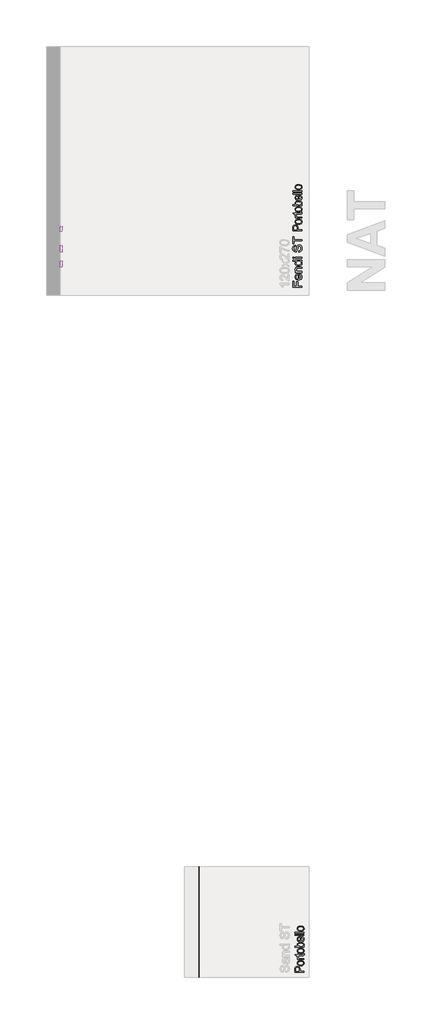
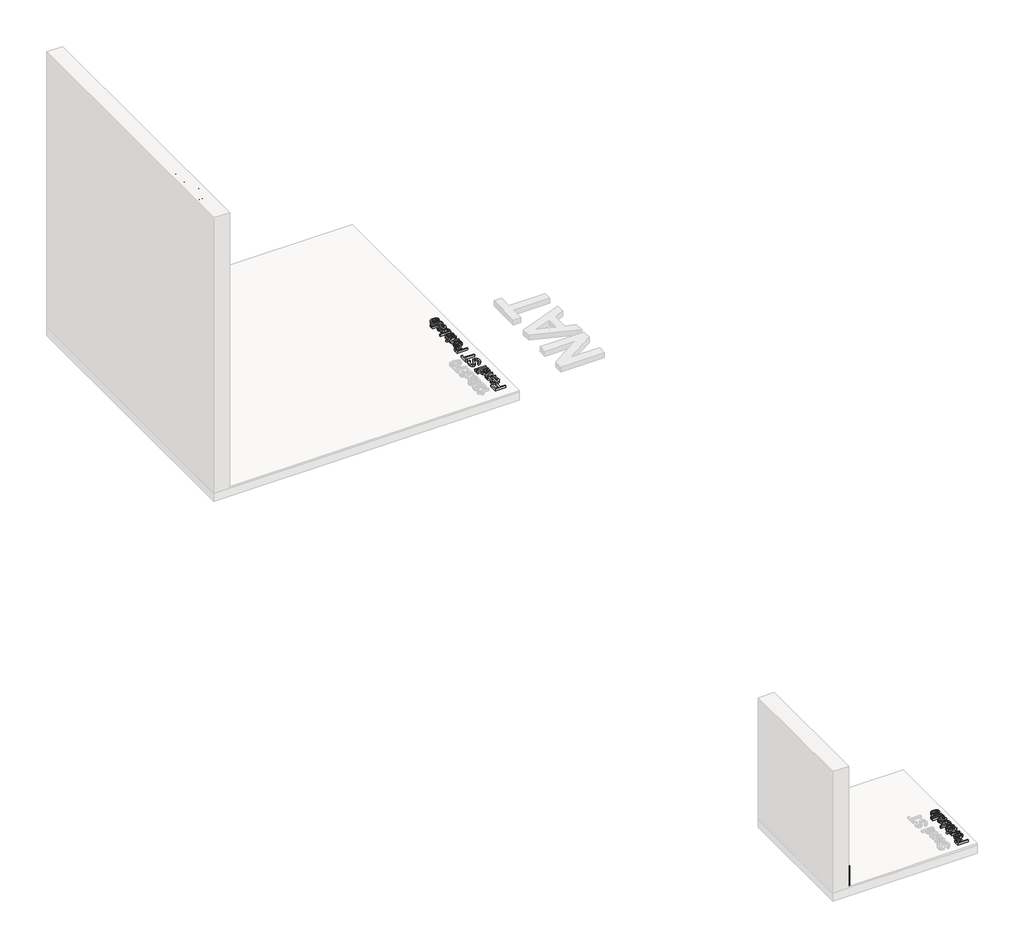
# One storey, part 12 of 19: 7 proxies.
"""IFC4 building model written with IfcOpenShell, lengths in millimetres."""

from ifc_helpers import new_model, si_unit, frame, origin, origin_with_axes, place, context, project, spatial, polyline, outline, extrude, element, save
from ifc_brep_helpers import plane_surface, extruded_surface, spline_curve, advanced_brep

model = new_model("IFC4")

# Units and contexts
model_context = context("Model", 3, world=origin())
ifc_project = project(units=[si_unit("LENGTHUNIT", "METRE", prefix="MILLI")], contexts=[model_context])

# Site, building, storey
site = spatial("IfcSite", under=ifc_project)
building = spatial("IfcBuilding", under=site)
storey = spatial("IfcBuildingStorey", under=building, Name="PORTOBELLO - SHOWROOM", Elevation=0.0)

# Proxies
placement = place(None, origin())
element("IfcBuildingElementProxy", 1, Name="RODAPE KALKS SAND ST 20X120 NAT RET", ObjectType="RODAPE KALKS SAND ST 20X120 NAT RET", at=placement, inside=storey, context=model_context, shape_type="AdvancedBrep", body=[
    advanced_brep(
    [(-7494.2033025, 18603.6967801, 217.0), (-7494.2033025, 18603.6967801, 17.0), (-7485.2033025, 18603.6967801, 17.0), (-7485.2033025, 18603.6967801, 208.0), (-7494.2033025, 19803.6967801, 217.0), (-7485.2033025, 19803.6967801, 208.0), (-7485.2033025, 19803.6967801, 17.0), (-7494.2033025, 19803.6967801, 17.0)],
    [
        (0, 1),
        (1, 2),
        (2, 3),
        (3, 0, spline_curve(3, [(-7485.2033025, 18603.6967801, 208.0), (-7485.2033025, 18603.6967801, 214.0), (-7488.2033025, 18603.6967801, 217.0), (-7494.2033025, 18603.6967801, 217.0)], [4, 4], [0.0, 0.029527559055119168])),
        (4, 5, spline_curve(3, [(-7494.2033025, 19803.6967801, 217.0), (-7488.2033025, 19803.6967801, 217.0), (-7485.2033025, 19803.6967801, 214.0), (-7485.2033025, 19803.6967801, 208.0)], [4, 4], [0.0, 0.029527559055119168])),
        (5, 6),
        (6, 7),
        (7, 4),
        (0, 4),
        (7, 1),
        (6, 2),
        (5, 3),
    ],
    [
        plane_surface(frame((-7694.2033025, 18603.6967801, 17.0), z_axis=(0.0, -1.0, 0.0), x_axis=(0.0, 0.0, 1.0))),
        plane_surface(frame((-7694.2033025, 19803.6967801, 17.0), z_axis=(0.0, 1.0, 0.0), x_axis=(0.0, 0.0, 1.0))),
        plane_surface(frame((-7494.2033025, 18603.6967801, 217.0), z_axis=(-1.0, 0.0, 0.0), x_axis=(0.0, 1.0, 0.0))),
        plane_surface(frame((-7494.2033025, 18603.6967801, 17.0), z_axis=(0.0, 0.0, -1.0), x_axis=(0.0, 1.0, 0.0))),
        plane_surface(frame((-7485.2033025, 18603.6967801, 17.0), z_axis=(1.0, 0.0, 0.0), x_axis=(0.0, 1.0, 0.0))),
        extruded_surface(spline_curve(3, [(-7485.2033025, 19803.6967801, 208.0), (-7485.2033025, 19803.6967801, 214.0), (-7488.2033025, 19803.6967801, 217.0), (-7494.2033025, 19803.6967801, 217.0)], [4, 4], [0.0, 0.029527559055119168]), (0.0, -1200.0, 0.0), 1200.0),
    ],
    [
        (0, [[1, 2, 3, 4]]),
        (1, [[5, 6, 7, 8]]),
        (2, [[-1, 9, -8, 10]]),
        (3, [[-2, -10, -7, 11]]),
        (4, [[-3, -11, -6, 12]]),
        (5, [[-4, -12, -5, -9]]),
    ],
),
])
element("IfcBuildingElementProxy", 2, Name="10mm Arial", ObjectType="10mm Arial", at=placement, inside=storey, context=model_context, shape_type="SweptSolid", body=[
    extrude(outline(polyline([(-6369.7750187, 26090.3457717), (-6470.2313288, 26090.3457717), (-6470.2313288, 26157.8398551), (-6457.6742901, 26157.8398551), (-6457.6742901, 26102.9028104), (-6427.851323, 26102.9028104), (-6427.851323, 26149.9917058), (-6415.2942842, 26149.9917058), (-6415.2942842, 26102.9028104), (-6369.7750187, 26102.9028104), (-6369.7750187, 26090.3457717)])), origin_with_axes(), (0.0, 0.0, 1.0), 20.0),
    extrude(outline(polyline([(-6391.7498365, 26225.1867856), (-6390.1802067, 26237.4985697), (-6380.903449, 26233.062526), (-6373.9688734, 26225.9838633), (-6369.64626, 26216.4219971), (-6368.2053888, 26204.536343), (-6370.691658, 26189.8026691), (-6378.1504654, 26178.4657723), (-6390.0974332, 26171.236891), (-6406.0481834, 26168.827264), (-6422.5354282, 26171.2614165), (-6434.8656064, 26178.5638741), (-6442.5543401, 26189.7474868), (-6445.1172513, 26203.8251045), (-6442.5604714, 26217.4643294), (-6434.8901318, 26228.3628335), (-6422.5844791, 26235.5089413), (-6406.1217598, 26237.8909772), (-6402.7372455, 26237.8174008), (-6402.7372455, 26181.3843027), (-6393.3378605, 26183.5578722), (-6386.4278103, 26188.6070526), (-6382.1787733, 26195.8941818), (-6380.7624276, 26204.7815976), (-6383.3866525, 26217.0933817), (-6391.7498365, 26225.1867856)]), holes=[polyline([(-6415.2942842, 26181.3843027), (-6415.2942842, 26225.3339384), (-6426.6741006, 26220.3062178), (-6431.0886845, 26212.9853661), (-6432.5602125, 26203.7760535), (-6427.8635857, 26188.312747), (-6422.3729469, 26183.4475076), (-6415.2942842, 26181.3843027)])]), origin_with_axes(), (0.0, 0.0, 1.0), 20.0),
    extrude(outline(polyline([(-6369.7750187, 26250.448016), (-6443.5476215, 26250.448016), (-6443.5476215, 26263.0050547), (-6433.2469256, 26263.0050547), (-6442.1496699, 26272.6067748), (-6445.1172513, 26285.7156366), (-6442.7260183, 26297.5736996), (-6436.4474989, 26305.6671034), (-6427.2136609, 26309.4317625), (-6415.073555, 26310.0939501), (-6369.7750187, 26310.0939501), (-6369.7750187, 26297.5369114), (-6413.3812978, 26297.5369114), (-6424.4913341, 26296.0899088), (-6430.3651833, 26290.9763491), (-6432.5602125, 26282.3556477), (-6427.6305938, 26268.7317511), (-6420.4875517, 26264.4367288), (-6408.917663, 26263.0050547), (-6369.7750187, 26263.0050547), (-6369.7750187, 26250.448016)])), origin_with_axes(), (0.0, 0.0, 1.0), 20.0),
    extrude(outline(polyline([(-6369.7750187, 26372.879144), (-6381.6208189, 26372.879144), (-6371.5592464, 26364.5711422), (-6368.2053888, 26353.0870926), (-6373.0614312, 26337.537947), (-6386.6117513, 26326.550538), (-6406.5877437, 26322.6509889), (-6426.5759987, 26326.2439697), (-6440.3347854, 26337.0106494), (-6445.1172513, 26353.0380417), (-6441.6959487, 26364.6140618), (-6432.8054672, 26372.879144), (-6470.2313288, 26372.879144), (-6470.2313288, 26385.4361827), (-6369.7750187, 26385.4361827), (-6369.7750187, 26372.879144)]), holes=[polyline([(-6406.6367946, 26335.2080277), (-6395.278438, 26336.6243733), (-6387.2003625, 26340.8734104), (-6382.3719113, 26347.0476965), (-6380.7624276, 26354.2397895), (-6382.2983349, 26361.4288169), (-6386.9060569, 26367.4467532), (-6394.6714327, 26371.5210463), (-6405.6803014, 26372.879144), (-6417.716174, 26371.4965208), (-6426.0609639, 26367.3486513), (-6430.9354004, 26361.1774308), (-6432.5602125, 26353.7247548), (-6430.9997797, 26346.4590853), (-6426.3184813, 26340.5055284), (-6418.2771941, 26336.5324028), (-6406.6367946, 26335.2080277)])]), origin_with_axes(), (0.0, 0.0, 1.0), 20.0),
    extrude(outline(polyline([(-6369.7750187, 26404.2717409), (-6443.5476215, 26404.2717409), (-6443.5476215, 26416.8287797), (-6369.7750187, 26416.8287797), (-6369.7750187, 26404.2717409)])), origin_with_axes(), (0.0, 0.0, 1.0), 20.0),
    extrude(outline(polyline([(-6457.6742901, 26404.2717409), (-6470.2313288, 26404.2717409), (-6470.2313288, 26416.8287797), (-6457.6742901, 26416.8287797), (-6457.6742901, 26404.2717409)])), origin_with_axes(), (0.0, 0.0, 1.0), 20.0),
    extrude(outline(polyline([(-6404.3068753, 26471.7658243), (-6404.3068753, 26484.322863), (-6391.7375738, 26488.369565), (-6383.7913227, 26498.2533279), (-6380.7624276, 26513.3119643), (-6383.0555587, 26526.4330888), (-6389.3586036, 26534.9066374), (-6397.7831013, 26537.6902778), (-6405.6189877, 26535.6056132), (-6411.3211587, 26527.0707509), (-6416.1158873, 26508.7870157), (-6422.3085676, 26489.105329), (-6431.6527703, 26478.4244884), (-6444.1362326, 26474.905084), (-6458.3487404, 26479.2583542), (-6468.3796561, 26491.9748085), (-6471.8009587, 26510.5896375), (-6468.2202406, 26530.4552652), (-6457.6988155, 26543.6990171), (-6441.9779916, 26548.6776867), (-6441.9779916, 26536.120648), (-6449.4705216, 26533.8152541), (-6454.8783869, 26529.0082627), (-6459.2439199, 26511.0801468), (-6454.9274378, 26493.10298), (-6444.5041146, 26487.4621227), (-6435.7975741, 26491.4597737), (-6428.7832907, 26511.9630636), (-6422.4802459, 26534.1831361), (-6412.3021773, 26546.3355047), (-6398.1019323, 26550.2473166), (-6383.0800842, 26545.7468935), (-6372.1172007, 26532.7974473), (-6368.2053888, 26513.8024736), (-6372.4237691, 26491.3739346), (-6385.1279606, 26477.1859523), (-6404.3068753, 26471.7658243)])), origin_with_axes(), (0.0, 0.0, 1.0), 20.0),
    extrude(outline(polyline([(-6369.7750187, 26594.1969523), (-6457.6742901, 26594.1969523), (-6457.6742901, 26561.2347255), (-6470.2313288, 26561.2347255), (-6470.2313288, 26639.7162178), (-6457.6742901, 26639.7162178), (-6457.6742901, 26606.753991), (-6369.7750187, 26606.753991), (-6369.7750187, 26594.1969523)])), origin_with_axes(), (0.0, 0.0, 1.0), 20.0),
])
element("IfcBuildingElementProxy", 3, Name="10mm Arial", ObjectType="10mm Arial", at=placement, inside=storey, context=model_context, shape_type="SweptSolid", body=[
    extrude(outline(polyline([(26086.9887696, 2516.1895903), (26086.9887696, 2616.6459005), (26154.482853, 2616.6459005), (26154.482853, 2604.0888617), (26099.5458084, 2604.0888617), (26099.5458084, 2574.2658946), (26146.6347037, 2574.2658946), (26146.6347037, 2561.7088559), (26099.5458084, 2561.7088559), (26099.5458084, 2516.1895903), (26086.9887696, 2516.1895903)])), frame((-8994.2033025, 0.0, 0.0), z_axis=(1.0, 0.0, 0.0), x_axis=(0.0, 1.0, 0.0)), (0.0, 0.0, 1.0), 20.0),
    extrude(outline(polyline([(26221.8297836, 2538.1644082), (26234.1415677, 2536.5947783), (26229.7055239, 2527.3180207), (26222.6268612, 2520.3834451), (26213.064995, 2516.0608316), (26201.1793409, 2514.6199605), (26186.445667, 2517.1062296), (26175.1087702, 2524.5650371), (26167.879889, 2536.5120049), (26165.4702619, 2552.4627551), (26167.9044144, 2568.9499998), (26175.206872, 2581.280178), (26186.3904847, 2588.9689117), (26200.4681024, 2591.531823), (26214.1073273, 2588.9750431), (26225.0058314, 2581.3047035), (26232.1519392, 2568.9990508), (26234.5339751, 2552.5363315), (26234.4603987, 2549.1518171), (26178.0273007, 2549.1518171), (26180.2008701, 2539.7524321), (26185.2500505, 2532.842382), (26192.5371797, 2528.5933449), (26201.4245956, 2527.1769993), (26213.7363797, 2529.8012242), (26221.8297836, 2538.1644082)]), holes=[polyline([(26178.0273007, 2561.7088559), (26221.9769364, 2561.7088559), (26216.9492157, 2573.0886723), (26209.628364, 2577.5032562), (26200.4190514, 2578.9747842), (26184.9557449, 2574.2781574), (26180.0905055, 2568.7875186), (26178.0273007, 2561.7088559)])]), frame((-8994.2033025, 0.0, 0.0), z_axis=(1.0, 0.0, 0.0), x_axis=(0.0, 1.0, 0.0)), (0.0, 0.0, 1.0), 20.0),
    extrude(outline(polyline([(26247.0910139, 2516.1895903), (26247.0910139, 2589.9621931), (26259.6480527, 2589.9621931), (26259.6480527, 2579.6614972), (26269.2497727, 2588.5642415), (26282.3586345, 2591.531823), (26294.2166975, 2589.14059), (26302.3101014, 2582.8620706), (26306.0747604, 2573.6282325), (26306.736948, 2561.4881267), (26306.736948, 2516.1895903), (26294.1799093, 2516.1895903), (26294.1799093, 2559.7958695), (26292.7329068, 2570.9059058), (26287.619347, 2576.7797549), (26278.9986456, 2578.9747842), (26265.374749, 2574.0451655), (26261.0797268, 2566.9021234), (26259.6480527, 2555.3322346), (26259.6480527, 2516.1895903), (26247.0910139, 2516.1895903)])), frame((-8994.2033025, 0.0, 0.0), z_axis=(1.0, 0.0, 0.0), x_axis=(0.0, 1.0, 0.0)), (0.0, 0.0, 1.0), 20.0),
    extrude(outline(polyline([(26369.5221419, 2516.1895903), (26369.5221419, 2528.0353906), (26361.2141402, 2517.973818), (26349.7300905, 2514.6199605), (26334.1809449, 2519.4760028), (26323.193536, 2533.026323), (26319.2939868, 2553.0023153), (26322.8869676, 2572.9905704), (26333.6536474, 2586.749357), (26349.6810396, 2591.531823), (26361.2570597, 2588.1105204), (26369.5221419, 2579.2200388), (26369.5221419, 2616.6459005), (26382.0791807, 2616.6459005), (26382.0791807, 2516.1895903), (26369.5221419, 2516.1895903)]), holes=[polyline([(26331.8510256, 2553.0513663), (26333.2673713, 2541.6930097), (26337.5164083, 2533.6149342), (26343.6906945, 2528.786483), (26350.8827875, 2527.1769993), (26358.0718148, 2528.7129066), (26364.0897511, 2533.3206286), (26368.1640442, 2541.0860044), (26369.5221419, 2552.0948731), (26368.1395187, 2564.1307457), (26363.9916492, 2572.4755356), (26357.8204288, 2577.349972), (26350.3677527, 2578.9747842), (26343.1020833, 2577.4143514), (26337.1485263, 2572.733053), (26333.1754008, 2564.6917657), (26331.8510256, 2553.0513663)])]), frame((-8994.2033025, 0.0, 0.0), z_axis=(1.0, 0.0, 0.0), x_axis=(0.0, 1.0, 0.0)), (0.0, 0.0, 1.0), 20.0),
    extrude(outline(polyline([(-8974.2033025, 26413.4717776), (-8974.2033025, 26400.9147388), (-8994.2033025, 26400.9147388), (-8994.2033025, 26413.4717776), (-8974.2033025, 26413.4717776)])), frame((0.0, 0.0, 2516.1895903), z_axis=(0.0, 0.0, 1.0), x_axis=(1.0, 0.0, 0.0)), (0.0, 0.0, 1.0), 73.7726028),
    extrude(outline(polyline([(-8974.2033025, 26413.4717776), (-8974.2033025, 26400.9147388), (-8994.2033025, 26400.9147388), (-8994.2033025, 26413.4717776), (-8974.2033025, 26413.4717776)])), frame((0.0, 0.0, 2604.0888617), z_axis=(0.0, 0.0, 1.0), x_axis=(1.0, 0.0, 0.0)), (0.0, 0.0, 1.0), 12.5570388),
    extrude(outline(polyline([(26468.4088222, 2550.721447), (26480.965861, 2550.721447), (26485.0125629, 2538.1521455), (26494.8963258, 2530.2058944), (26509.9549622, 2527.1769993), (26523.0760867, 2529.4701304), (26531.5496353, 2535.7731752), (26534.3332757, 2544.1976729), (26532.2486111, 2552.0335594), (26523.7137488, 2557.7357303), (26505.4300136, 2562.530459), (26485.7483269, 2568.7231393), (26475.0674863, 2578.0673419), (26471.5480819, 2590.5508043), (26475.9013522, 2604.763312), (26488.6178065, 2614.7942278), (26507.2326354, 2618.2155303), (26527.0982631, 2614.6348123), (26540.342015, 2604.1133872), (26545.3206846, 2588.3925633), (26532.7636459, 2588.3925633), (26530.458252, 2595.8850932), (26525.6512606, 2601.2929586), (26507.7231447, 2605.6584916), (26489.7459779, 2601.3420095), (26484.1051206, 2590.9186863), (26488.1027717, 2582.2121457), (26508.6060615, 2575.1978624), (26530.826134, 2568.8948175), (26542.9785026, 2558.716749), (26546.8903145, 2544.516504), (26542.3898914, 2529.4946558), (26529.4404452, 2518.5317724), (26510.4454715, 2514.6199605), (26488.0169325, 2518.8383407), (26473.8289502, 2531.5425323), (26468.4088222, 2550.721447)])), frame((-8994.2033025, 0.0, 0.0), z_axis=(1.0, 0.0, 0.0), x_axis=(0.0, 1.0, 0.0)), (0.0, 0.0, 1.0), 20.0),
    extrude(outline(polyline([(26590.8399502, 2516.1895903), (26590.8399502, 2604.0888617), (26557.8777234, 2604.0888617), (26557.8777234, 2616.6459005), (26636.3592157, 2616.6459005), (26636.3592157, 2604.0888617), (26603.3969889, 2604.0888617), (26603.3969889, 2516.1895903), (26590.8399502, 2516.1895903)])), frame((-8994.2033025, 0.0, 0.0), z_axis=(1.0, 0.0, 0.0), x_axis=(0.0, 1.0, 0.0)), (0.0, 0.0, 1.0), 20.0),
])
element("IfcBuildingElementProxy", 4, Name="10mm Arial", ObjectType="10mm Arial", at=placement, inside=storey, context=model_context, shape_type="SweptSolid", body=[
    extrude(outline(polyline([(26129.3687754, 2381.1895903), (26116.8117367, 2381.1895903), (26116.8117367, 2459.4748789), (26104.9168855, 2451.0013303), (26091.6976591, 2444.6614972), (26091.6976591, 2456.531823), (26110.1040216, 2468.2795213), (26121.2753715, 2481.6459005), (26129.3687754, 2481.6459005), (26129.3687754, 2381.1895903)])), frame((-8994.2033025, 0.0, 0.0), z_axis=(1.0, 0.0, 0.0), x_axis=(0.0, 1.0, 0.0)), (0.0, 0.0, 1.0), 20.0),
    extrude(outline(polyline([(26223.5465662, 2393.7466291), (26223.5465662, 2381.1895903), (26157.6221127, 2381.1895903), (26158.9710133, 2389.84708), (26166.6106961, 2403.1766709), (26182.3437827, 2417.7325352), (26204.0120323, 2438.652758), (26209.4198976, 2452.8775285), (26204.3063378, 2464.3922349), (26190.9522214, 2469.0888617), (26177.0340193, 2464.5025995), (26171.7487813, 2451.8229334), (26159.1917425, 2453.3925633), (26162.235966, 2465.5388005), (26168.817988, 2474.4108879), (26178.5944521, 2479.8371473), (26191.2220016, 2481.6459005), (26203.9415215, 2479.6348123), (26213.6995915, 2473.6015475), (26219.9076001, 2464.5884386), (26221.9769364, 2453.6378179), (26219.7451189, 2441.730704), (26212.3261653, 2429.4189199), (26194.3367358, 2412.2143053), (26179.8912361, 2400.1355131), (26174.2258534, 2393.7466291), (26223.5465662, 2393.7466291)])), frame((-8994.2033025, 0.0, 0.0), z_axis=(1.0, 0.0, 0.0), x_axis=(0.0, 1.0, 0.0)), (0.0, 0.0, 1.0), 20.0),
    extrude(outline(polyline([(26236.103605, 2430.608405), (26239.7946876, 2459.5116671), (26250.7575711, 2476.1767215), (26269.0658317, 2481.6459005), (26283.7320606, 2478.4085389), (26293.8610782, 2469.076599), (26299.7471901, 2454.2141664), (26302.0280585, 2430.608405), (26298.373764, 2401.8277703), (26287.4476688, 2385.1259277), (26279.2163091, 2380.9964523), (26269.0658317, 2379.6199605), (26256.0182836, 2382.0111935), (26246.1099952, 2389.1848924), (26238.6052025, 2406.1749092), (26236.103605, 2430.608405)]), holes=[polyline([(26248.6606437, 2430.6329305), (26250.1321717, 2410.880733), (26254.5467557, 2399.4488), (26261.1195806, 2393.9949495), (26269.0658317, 2392.1769993), (26277.0120828, 2394.0010808), (26283.5849078, 2399.4733255), (26287.9994918, 2410.9113899), (26289.4710197, 2430.6329305), (26288.0485427, 2449.9406039), (26283.7811115, 2461.4614417), (26277.2205493, 2467.1820067), (26268.9186789, 2469.0888617), (26261.058267, 2467.4088673), (26254.7429594, 2462.3688839), (26250.1812226, 2450.1306762), (26248.6606437, 2430.6329305)])]), frame((-8994.2033025, 0.0, 0.0), z_axis=(1.0, 0.0, 0.0), x_axis=(0.0, 1.0, 0.0)), (0.0, 0.0, 1.0), 20.0),
    extrude(outline(polyline([(26308.3065779, 2381.1895903), (26335.1374381, 2418.2966209), (26309.8762077, 2454.9621931), (26324.9348441, 2454.9621931), (26337.1240008, 2437.2793319), (26342.8384345, 2428.9651988), (26347.7925787, 2435.7832784), (26361.6739927, 2454.9621931), (26376.7816799, 2454.9621931), (26350.2451253, 2418.2720955), (26375.8006613, 2381.1895903), (26360.7174995, 2381.1895903), (26345.3155066, 2403.5077647), (26342.5196034, 2407.6035176), (26323.4142652, 2381.1895903), (26308.3065779, 2381.1895903)])), frame((-8994.2033025, 0.0, 0.0), z_axis=(1.0, 0.0, 0.0), x_axis=(0.0, 1.0, 0.0)), (0.0, 0.0, 1.0), 20.0),
    extrude(outline(polyline([(26448.0036342, 2393.7466291), (26448.0036342, 2381.1895903), (26382.0791807, 2381.1895903), (26383.4280813, 2389.84708), (26391.0677641, 2403.1766709), (26406.8008507, 2417.7325352), (26428.4691002, 2438.652758), (26433.8769656, 2452.8775285), (26428.7634058, 2464.3922349), (26415.4092894, 2469.0888617), (26401.4910873, 2464.5025995), (26396.2058493, 2451.8229334), (26383.6488105, 2453.3925633), (26386.693034, 2465.5388005), (26393.275056, 2474.4108879), (26403.0515201, 2479.8371473), (26415.6790695, 2481.6459005), (26428.3985895, 2479.6348123), (26438.1566594, 2473.6015475), (26444.3646681, 2464.5884386), (26446.4340043, 2453.6378179), (26444.2021869, 2441.730704), (26436.7832333, 2429.4189199), (26418.7938038, 2412.2143053), (26404.3483041, 2400.1355131), (26398.6829214, 2393.7466291), (26448.0036342, 2393.7466291)])), frame((-8994.2033025, 0.0, 0.0), z_axis=(1.0, 0.0, 0.0), x_axis=(0.0, 1.0, 0.0)), (0.0, 0.0, 1.0), 20.0),
    extrude(outline(polyline([(26460.560673, 2467.5192319), (26460.560673, 2480.0762706), (26526.4851265, 2480.0762706), (26526.4851265, 2469.9227276), (26507.7844584, 2442.9079264), (26493.4738488, 2408.4864344), (26488.8140102, 2381.1895903), (26476.2569714, 2381.1895903), (26481.2479038, 2409.516504), (26494.9453768, 2441.5345003), (26513.9280877, 2467.5192319), (26460.560673, 2467.5192319)])), frame((-8994.2033025, 0.0, 0.0), z_axis=(1.0, 0.0, 0.0), x_axis=(0.0, 1.0, 0.0)), (0.0, 0.0, 1.0), 20.0),
    extrude(outline(polyline([(26537.4725354, 2430.608405), (26541.1636181, 2459.5116671), (26552.1265016, 2476.1767215), (26570.4347622, 2481.6459005), (26585.1009911, 2478.4085389), (26595.2300087, 2469.076599), (26601.1161206, 2454.2141664), (26603.3969889, 2430.608405), (26599.7426945, 2401.8277703), (26588.8165992, 2385.1259277), (26580.5852396, 2380.9964523), (26570.4347622, 2379.6199605), (26557.3872141, 2382.0111935), (26547.4789257, 2389.1848924), (26539.974133, 2406.1749092), (26537.4725354, 2430.608405)]), holes=[polyline([(26550.0295742, 2430.6329305), (26551.5011022, 2410.880733), (26555.9156861, 2399.4488), (26562.4885111, 2393.9949495), (26570.4347622, 2392.1769993), (26578.3810133, 2394.0010808), (26584.9538383, 2399.4733255), (26589.3684222, 2410.9113899), (26590.8399502, 2430.6329305), (26589.4174731, 2449.9406039), (26585.150042, 2461.4614417), (26578.5894797, 2467.1820067), (26570.2876094, 2469.0888617), (26562.4271974, 2467.4088673), (26556.1118898, 2462.3688839), (26551.5501531, 2450.1306762), (26550.0295742, 2430.6329305)])]), frame((-8994.2033025, 0.0, 0.0), z_axis=(1.0, 0.0, 0.0), x_axis=(0.0, 1.0, 0.0)), (0.0, 0.0, 1.0), 20.0),
])
element("IfcBuildingElementProxy", 5, Name="10mm Arial Narrow", ObjectType="10mm Arial Narrow", at=placement, inside=storey, context=model_context, shape_type="SweptSolid", body=[
    extrude(outline(polyline([(-6369.7750187, 26702.6596713), (-6470.4936224, 26702.6596713), (-6470.4936224, 26733.956556), (-6468.6153017, 26750.2522575), (-6459.1348585, 26761.7252436), (-6442.1157497, 26766.014922), (-6430.0399242, 26764.2286136), (-6420.4135304, 26758.8696884), (-6414.112272, 26749.1258996), (-6412.0118525, 26734.1850004), (-6412.0118525, 26712.406633), (-6369.7750187, 26712.406633), (-6369.7750187, 26702.6596713)]), holes=[polyline([(-6423.3833078, 26712.406633), (-6423.3833078, 26735.3779879), (-6427.914122, 26751.2421833), (-6441.5827127, 26756.2679604), (-6451.7484892, 26753.7931459), (-6457.548439, 26747.8155171), (-6459.1221672, 26735.1495435), (-6459.1221672, 26712.406633), (-6423.3833078, 26712.406633)])]), origin_with_axes(), (0.0, 0.0, 1.0), 20.0),
    extrude(outline(polyline([(-6406.3261249, 26774.1373901), (-6422.9169004, 26776.091859), (-6434.8689853, 26781.9552656), (-6442.0935398, 26790.8138323), (-6444.5017247, 26801.7537814), (-6442.0935398, 26812.566817), (-6434.8689853, 26821.4507665), (-6423.1072708, 26827.3903212), (-6407.0876063, 26829.3701728), (-6389.9257197, 26827.4252224), (-6377.7832645, 26821.5903714), (-6370.5587099, 26812.7413232), (-6368.1505251, 26801.7537814), (-6370.5650556, 26790.8931533), (-6377.8086472, 26782.0187224), (-6389.7670777, 26776.1077232), (-6406.3261249, 26774.1373901)]), holes=[polyline([(-6406.3515076, 26783.8843517), (-6393.7997562, 26785.1883886), (-6384.9284981, 26789.1004992), (-6379.6552396, 26794.9416959), (-6377.8974867, 26802.0329913), (-6379.6711038, 26808.7530645), (-6384.9919549, 26814.4451378), (-6393.8790772, 26818.3286928), (-6406.3515076, 26819.6232111), (-6418.8651849, 26818.3191743), (-6427.7237516, 26814.4070637), (-6432.9970102, 26808.5658669), (-6434.754763, 26801.4745716), (-6432.9874917, 26794.7069058), (-6427.6856776, 26789.0243511), (-6418.8175923, 26785.1693516), (-6406.3515076, 26783.8843517)])]), origin_with_axes(), (0.0, 0.0, 1.0), 20.0),
    extrude(outline(polyline([(-6377.8974867, 26900.8478916), (-6368.1505251, 26902.4723852), (-6368.1505251, 26895.1113985), (-6370.2699816, 26886.8366342), (-6376.0699314, 26882.5215731), (-6390.7157566, 26881.3539683), (-6433.1302694, 26881.3539683), (-6433.1302694, 26873.2315002), (-6436.3792567, 26873.2315002), (-6431.5057758, 26871.6070066), (-6433.1302694, 26864.0429583), (-6430.8077512, 26857.9637986), (-6424.3224681, 26854.0929349), (-6408.9151616, 26852.1130833), (-6369.7750187, 26852.1130833), (-6369.7750187, 26842.3661217), (-6442.8772311, 26842.3661217), (-6442.8772311, 26852.1130833), (-6433.1810349, 26852.1130833), (-6442.268046, 26858.3572306), (-6444.5017247, 26864.7536742), (-6442.8772311, 26873.2315002), (-6442.8772311, 26881.3539683), (-6459.1221672, 26881.3539683), (-6467.2446352, 26891.1009299), (-6442.8772311, 26891.1009299), (-6442.8772311, 26900.8478916), (-6433.1302694, 26900.8478916), (-6433.1302694, 26891.1009299), (-6388.4820779, 26891.1009299), (-6380.4865234, 26891.9639422), (-6377.8974867, 26896.5835959), (-6377.8974867, 26900.8478916)])), origin_with_axes(), (0.0, 0.0, 1.0), 20.0),
    extrude(outline(polyline([(-6406.3261249, 26907.345866), (-6422.9169004, 26909.3003349), (-6434.8689853, 26915.1637415), (-6442.0935398, 26924.0223082), (-6444.5017247, 26934.9622574), (-6442.0935398, 26945.775293), (-6434.8689853, 26954.6592424), (-6423.1072708, 26960.5987971), (-6407.0876063, 26962.5786487), (-6389.9257197, 26960.6336984), (-6377.7832645, 26954.7988473), (-6370.5587099, 26945.9497991), (-6368.1505251, 26934.9622574), (-6370.5650556, 26924.1016292), (-6377.8086472, 26915.2271983), (-6389.7670777, 26909.3161991), (-6406.3261249, 26907.345866)]), holes=[polyline([(-6406.3515076, 26917.0928277), (-6393.7997562, 26918.3968645), (-6384.9284981, 26922.3089751), (-6379.6552396, 26928.1501719), (-6377.8974867, 26935.2414672), (-6379.6711038, 26941.9615404), (-6384.9919549, 26947.6536137), (-6393.8790772, 26951.5371687), (-6406.3515076, 26952.8316871), (-6418.8651849, 26951.5276502), (-6427.7237516, 26947.6155396), (-6432.9970102, 26941.7743429), (-6434.754763, 26934.6830475), (-6432.9874917, 26927.9153818), (-6427.6856776, 26922.232827), (-6418.8175923, 26918.3778275), (-6406.3515076, 26917.0928277)])]), origin_with_axes(), (0.0, 0.0, 1.0), 20.0),
    extrude(outline(polyline([(-6369.7750187, 26985.3215593), (-6369.7750187, 26975.5745976), (-6470.4936224, 26975.5745976), (-6470.4936224, 26985.3215593), (-6435.0847383, 26985.3215593), (-6442.1665151, 26992.72062), (-6444.5017247, 27001.9218533), (-6440.3008858, 27014.80358), (-6427.5714554, 27024.0809615), (-6406.8845446, 27027.5583931), (-6390.4302011, 27025.6261341), (-6378.227462, 27019.8293571), (-6370.6697593, 27011.4562348), (-6368.1505251, 27001.7949398), (-6370.7649445, 26992.4541015), (-6378.5320545, 26985.3215593), (-6369.7750187, 26985.3215593)]), holes=[polyline([(-6406.8845446, 26985.3215593), (-6389.6369913, 26987.4029417), (-6380.9053382, 26993.291731), (-6377.8974867, 27001.7441743), (-6379.686968, 27007.6869019), (-6385.0554117, 27012.9252592), (-6406.4784212, 27017.8114314), (-6427.914122, 27013.1029382), (-6433.0446028, 27007.8582352), (-6434.754763, 27001.5411126), (-6432.9652818, 26995.5634838), (-6427.5968381, 26990.2711882), (-6406.8845446, 26985.3215593)])]), origin_with_axes(), (0.0, 0.0, 1.0), 20.0),
    extrude(outline(polyline([(-6392.5179292, 27079.5421886), (-6390.8934356, 27089.2891502), (-6381.006869, 27085.5896199), (-6373.8870181, 27079.770633), (-6369.5846483, 27072.0669797), (-6368.1505251, 27062.7134501), (-6370.5650556, 27051.1198961), (-6377.8086472, 27041.9757739), (-6389.6147815, 27036.0362191), (-6405.7169398, 27034.0563675), (-6422.3838635, 27036.0457376), (-6434.5643927, 27042.0138479), (-6442.0173917, 27051.0278838), (-6444.5017247, 27062.1550304), (-6442.1030584, 27072.8379796), (-6434.9070593, 27081.5854969), (-6423.1675547, 27087.420348), (-6407.1383717, 27089.3652984), (-6403.8893845, 27089.2891502), (-6403.8893845, 27043.8033292), (-6384.4462266, 27049.8063407), (-6379.5346717, 27055.736377), (-6377.8974867, 27062.8403637), (-6381.5525974, 27073.0188314), (-6392.5179292, 27079.5421886)]), holes=[polyline([(-6413.6363461, 27044.4632797), (-6413.6363461, 27079.5421886), (-6427.9014306, 27075.2778928), (-6433.0414299, 27069.4525603), (-6434.754763, 27062.2311785), (-6429.0436527, 27050.0220938), (-6413.6363461, 27044.4632797)])]), origin_with_axes(), (0.0, 0.0, 1.0), 20.0),
    extrude(outline(polyline([(-6369.7750187, 27102.2850991), (-6470.4936224, 27102.2850991), (-6470.4936224, 27112.0320607), (-6369.7750187, 27112.0320607), (-6369.7750187, 27102.2850991)])), origin_with_axes(), (0.0, 0.0, 1.0), 20.0),
    extrude(outline(polyline([(-6369.7750187, 27128.2769968), (-6470.4936224, 27128.2769968), (-6470.4936224, 27138.0239585), (-6369.7750187, 27138.0239585), (-6369.7750187, 27128.2769968)])), origin_with_axes(), (0.0, 0.0, 1.0), 20.0),
    extrude(outline(polyline([(-6406.3261249, 27149.3954138), (-6422.9169004, 27151.3498826), (-6434.8689853, 27157.2132892), (-6442.0935398, 27166.071856), (-6444.5017247, 27177.0118051), (-6442.0935398, 27187.8248407), (-6434.8689853, 27196.7087901), (-6423.1072708, 27202.6483449), (-6407.0876063, 27204.6281965), (-6389.9257197, 27202.6832461), (-6377.7832645, 27196.848395), (-6370.5587099, 27187.9993468), (-6368.1505251, 27177.0118051), (-6370.5650556, 27166.1511769), (-6377.8086472, 27157.276746), (-6389.7670777, 27151.3657468), (-6406.3261249, 27149.3954138)]), holes=[polyline([(-6406.3515076, 27159.1423754), (-6393.7997562, 27160.4464123), (-6384.9284981, 27164.3585229), (-6379.6552396, 27170.1997196), (-6377.8974867, 27177.2910149), (-6379.6711038, 27184.0110881), (-6384.9919549, 27189.7031614), (-6393.8790772, 27193.5867165), (-6406.3515076, 27194.8812348), (-6418.8651849, 27193.5771979), (-6427.7237516, 27189.6650874), (-6432.9970102, 27183.8238906), (-6434.754763, 27176.7325953), (-6432.9874917, 27169.9649295), (-6427.6856776, 27164.2823747), (-6418.8175923, 27160.4273752), (-6406.3515076, 27159.1423754)])]), origin_with_axes(), (0.0, 0.0, 1.0), 20.0),
])
element("IfcBuildingElementProxy", 6, Name="10mm Arial Narrow", ObjectType="10mm Arial Narrow", at=placement, inside=storey, context=model_context, shape_type="SweptSolid", body=[
    extrude(outline(polyline([(26690.7745931, 2516.1895903), (26690.7745931, 2616.9081941), (26722.0714778, 2616.9081941), (26738.3671793, 2615.0298734), (26749.8401655, 2605.5494302), (26754.1298439, 2588.5303214), (26752.3435355, 2576.4544958), (26746.9846103, 2566.8281021), (26737.2408215, 2560.5268436), (26722.2999222, 2558.4264242), (26700.5215548, 2558.4264242), (26700.5215548, 2516.1895903), (26690.7745931, 2516.1895903)]), holes=[polyline([(26700.5215548, 2569.7978794), (26723.4929097, 2569.7978794), (26739.3571051, 2574.3286936), (26744.3828822, 2587.9972844), (26741.9080678, 2598.1630608), (26735.9304389, 2603.9630106), (26723.2644653, 2605.5367388), (26700.5215548, 2605.5367388), (26700.5215548, 2569.7978794)])]), frame((-8994.2033025, 0.0, 0.0), z_axis=(1.0, 0.0, 0.0), x_axis=(0.0, 1.0, 0.0)), (0.0, 0.0, 1.0), 20.0),
    extrude(outline(polyline([(26762.2523119, 2552.7406965), (26764.2067808, 2569.3314721), (26770.0701874, 2581.2835569), (26778.9287541, 2588.5081115), (26789.8687033, 2590.9162964), (26800.6817389, 2588.5081115), (26809.5656883, 2581.2835569), (26815.5052431, 2569.5218424), (26817.4850946, 2553.5021779), (26815.5401443, 2536.3402913), (26809.7052932, 2524.1978362), (26800.856245, 2516.9732816), (26789.8687033, 2514.5650967), (26779.0080751, 2516.9796273), (26770.1336442, 2524.2232189), (26764.222645, 2536.1816494), (26762.2523119, 2552.7406965)]), holes=[polyline([(26771.9992736, 2552.7660793), (26773.3033105, 2540.2143279), (26777.215421, 2531.3430698), (26783.0566178, 2526.0698112), (26790.1479131, 2524.3120584), (26796.8679863, 2526.0856754), (26802.5600596, 2531.4065266), (26806.4436146, 2540.2936488), (26807.738133, 2552.7660793), (26806.4340961, 2565.2797566), (26802.5219855, 2574.1383233), (26796.6807888, 2579.4115818), (26789.5894935, 2581.1693347), (26782.8218277, 2579.4020633), (26777.1392729, 2574.1002492), (26773.2842734, 2565.232164), (26771.9992736, 2552.7660793)])]), frame((-8994.2033025, 0.0, 0.0), z_axis=(1.0, 0.0, 0.0), x_axis=(0.0, 1.0, 0.0)), (0.0, 0.0, 1.0), 20.0),
    extrude(outline(polyline([(26888.9628134, 2524.3120584), (26890.587307, 2514.5650967), (26883.2263204, 2514.5650967), (26874.9515561, 2516.6845532), (26870.6364949, 2522.4845031), (26869.4688901, 2537.1303283), (26869.4688901, 2579.5448411), (26861.3464221, 2579.5448411), (26861.3464221, 2582.7938283), (26859.7219285, 2577.9203475), (26852.1578801, 2579.5448411), (26846.0787204, 2577.2223229), (26842.2078568, 2570.7370398), (26840.2280052, 2555.3297332), (26840.2280052, 2516.1895903), (26830.4810435, 2516.1895903), (26830.4810435, 2589.2918027), (26840.2280052, 2589.2918027), (26840.2280052, 2579.5956065), (26846.4721525, 2588.6826176), (26852.8685961, 2590.9162964), (26861.3464221, 2589.2918027), (26869.4688901, 2589.2918027), (26869.4688901, 2605.5367388), (26879.2158518, 2613.6592069), (26879.2158518, 2589.2918027), (26888.9628134, 2589.2918027), (26888.9628134, 2579.5448411), (26879.2158518, 2579.5448411), (26879.2158518, 2534.8966496), (26880.078864, 2526.9010951), (26884.6985177, 2524.3120584), (26888.9628134, 2524.3120584)])), frame((-8994.2033025, 0.0, 0.0), z_axis=(1.0, 0.0, 0.0), x_axis=(0.0, 1.0, 0.0)), (0.0, 0.0, 1.0), 20.0),
    extrude(outline(polyline([(26895.4607879, 2552.7406965), (26897.4152567, 2569.3314721), (26903.2786634, 2581.2835569), (26912.1372301, 2588.5081115), (26923.0771792, 2590.9162964), (26933.8902148, 2588.5081115), (26942.7741642, 2581.2835569), (26948.713719, 2569.5218424), (26950.6935706, 2553.5021779), (26948.7486202, 2536.3402913), (26942.9137691, 2524.1978362), (26934.064721, 2516.9732816), (26923.0771792, 2514.5650967), (26912.216551, 2516.9796273), (26903.3421201, 2524.2232189), (26897.4311209, 2536.1816494), (26895.4607879, 2552.7406965)]), holes=[polyline([(26905.2077495, 2552.7660793), (26906.5117864, 2540.2143279), (26910.423897, 2531.3430698), (26916.2650937, 2526.0698112), (26923.3563891, 2524.3120584), (26930.0764622, 2526.0856754), (26935.7685355, 2531.4065266), (26939.6520906, 2540.2936488), (26940.9466089, 2552.7660793), (26939.6425721, 2565.2797566), (26935.7304615, 2574.1383233), (26929.8892647, 2579.4115818), (26922.7979694, 2581.1693347), (26916.0303036, 2579.4020633), (26910.3477488, 2574.1002492), (26906.4927493, 2565.232164), (26905.2077495, 2552.7660793)])]), frame((-8994.2033025, 0.0, 0.0), z_axis=(1.0, 0.0, 0.0), x_axis=(0.0, 1.0, 0.0)), (0.0, 0.0, 1.0), 20.0),
    extrude(outline(polyline([(26973.4364811, 2516.1895903), (26963.6895194, 2516.1895903), (26963.6895194, 2616.9081941), (26973.4364811, 2616.9081941), (26973.4364811, 2581.49931), (26980.8355418, 2588.5810868), (26990.0367752, 2590.9162964), (27002.9185018, 2586.7154574), (27012.1958833, 2573.986027), (27015.6733149, 2553.2991162), (27013.7410559, 2536.8447728), (27007.9442789, 2524.6420337), (26999.5711566, 2517.084331), (26989.9098616, 2514.5650967), (26980.5690233, 2517.1795161), (26973.4364811, 2524.9466262), (26973.4364811, 2516.1895903)]), holes=[polyline([(26973.4364811, 2553.2991162), (26975.5178635, 2536.051563), (26981.4066529, 2527.3199098), (26989.8590962, 2524.3120584), (26995.8018238, 2526.1015396), (27001.0401811, 2531.4699834), (27005.9263533, 2552.8929928), (27001.2178601, 2574.3286936), (26995.9731571, 2579.4591744), (26989.6560345, 2581.1693347), (26983.6784056, 2579.3798535), (26978.3861101, 2574.0114097), (26973.4364811, 2553.2991162)])]), frame((-8994.2033025, 0.0, 0.0), z_axis=(1.0, 0.0, 0.0), x_axis=(0.0, 1.0, 0.0)), (0.0, 0.0, 1.0), 20.0),
    extrude(outline(polyline([(27067.6571104, 2538.9325009), (27077.4040721, 2537.3080073), (27073.7045417, 2527.4214407), (27067.8855548, 2520.3015898), (27060.1819015, 2515.99922), (27050.8283719, 2514.5650967), (27039.2348179, 2516.9796273), (27030.0906957, 2524.2232189), (27024.151141, 2536.0293531), (27022.1712894, 2552.1315114), (27024.1606595, 2568.7984351), (27030.1287698, 2580.9789644), (27039.1428056, 2588.4319634), (27050.2699523, 2590.9162964), (27060.9529014, 2588.51763), (27069.7004188, 2581.321631), (27075.5352698, 2569.5821264), (27077.4802202, 2553.5529433), (27077.4040721, 2550.3039561), (27031.918251, 2550.3039561), (27037.9212626, 2530.8607982), (27043.8512988, 2525.9492434), (27050.9552855, 2524.3120584), (27061.1337533, 2527.967169), (27067.6571104, 2538.9325009)]), holes=[polyline([(27032.5782015, 2560.0509178), (27067.6571104, 2560.0509178), (27063.3928147, 2574.3160023), (27057.5674821, 2579.4560016), (27050.3461004, 2581.1693347), (27038.1370156, 2575.4582244), (27032.5782015, 2560.0509178)])]), frame((-8994.2033025, 0.0, 0.0), z_axis=(1.0, 0.0, 0.0), x_axis=(0.0, 1.0, 0.0)), (0.0, 0.0, 1.0), 20.0),
    extrude(outline(polyline([(-8974.2033025, 27100.1469826), (-8974.2033025, 27090.4000209), (-8994.2033025, 27090.4000209), (-8994.2033025, 27100.1469826), (-8974.2033025, 27100.1469826)])), frame((0.0, 0.0, 2516.1895903), z_axis=(0.0, 0.0, 1.0), x_axis=(1.0, 0.0, 0.0)), (0.0, 0.0, 1.0), 100.7186038),
    extrude(outline(polyline([(-8974.2033025, 27126.1388803), (-8974.2033025, 27116.3919187), (-8994.2033025, 27116.3919187), (-8994.2033025, 27126.1388803), (-8974.2033025, 27126.1388803)])), frame((0.0, 0.0, 2516.1895903), z_axis=(0.0, 0.0, 1.0), x_axis=(1.0, 0.0, 0.0)), (0.0, 0.0, 1.0), 100.7186038),
    extrude(outline(polyline([(27137.5103356, 2552.7406965), (27139.4648045, 2569.3314721), (27145.3282111, 2581.2835569), (27154.1867778, 2588.5081115), (27165.1267269, 2590.9162964), (27175.9397625, 2588.5081115), (27184.823712, 2581.2835569), (27190.7632667, 2569.5218424), (27192.7431183, 2553.5021779), (27190.7981679, 2536.3402913), (27184.9633169, 2524.1978362), (27176.1142687, 2516.9732816), (27165.1267269, 2514.5650967), (27154.2660988, 2516.9796273), (27145.3916679, 2524.2232189), (27139.4806687, 2536.1816494), (27137.5103356, 2552.7406965)]), holes=[polyline([(27147.2572973, 2552.7660793), (27148.5613341, 2540.2143279), (27152.4734447, 2531.3430698), (27158.3146414, 2526.0698112), (27165.4059368, 2524.3120584), (27172.12601, 2526.0856754), (27177.8180833, 2531.4065266), (27181.7016383, 2540.2936488), (27182.9961566, 2552.7660793), (27181.6921198, 2565.2797566), (27177.7800092, 2574.1383233), (27171.9388125, 2579.4115818), (27164.8475171, 2581.1693347), (27158.0798514, 2579.4020633), (27152.3972966, 2574.1002492), (27148.5422971, 2565.232164), (27147.2572973, 2552.7660793)])]), frame((-8994.2033025, 0.0, 0.0), z_axis=(1.0, 0.0, 0.0), x_axis=(0.0, 1.0, 0.0)), (0.0, 0.0, 1.0), 20.0),
])
element("IfcBuildingElementProxy", 7, Name="10mm Arial Narrow", ObjectType="10mm Arial Narrow", at=placement, inside=storey, context=model_context, shape_type="SweptSolid", body=[
    extrude(outline(polyline([(-6346.9595993, 18659.7078955), (-6447.6782031, 18659.7078955), (-6447.6782031, 18691.0047802), (-6445.7998824, 18707.3004817), (-6436.3194392, 18718.7734678), (-6419.3003304, 18723.0631463), (-6407.2245048, 18721.2768379), (-6397.5981111, 18715.9179127), (-6391.2968526, 18706.1741238), (-6389.1964332, 18691.2332246), (-6389.1964332, 18669.4548572), (-6346.9595993, 18669.4548572), (-6346.9595993, 18659.7078955)]), holes=[polyline([(-6400.5678884, 18669.4548572), (-6400.5678884, 18692.4262121), (-6405.0987026, 18708.2904075), (-6418.7672934, 18713.3161846), (-6428.9330698, 18710.8413701), (-6434.7330196, 18704.8637413), (-6436.3067478, 18692.1977677), (-6436.3067478, 18669.4548572), (-6400.5678884, 18669.4548572)])]), frame((0.0, 0.0, 18.0), z_axis=(0.0, 0.0, 1.0), x_axis=(1.0, 0.0, 0.0)), (0.0, 0.0, 1.0), 20.0),
    extrude(outline(polyline([(-6383.5107055, 18731.1856143), (-6400.1014811, 18733.1400832), (-6412.0535659, 18739.0034898), (-6419.2781205, 18747.8620565), (-6421.6863053, 18758.8020057), (-6419.2781205, 18769.6150412), (-6412.0535659, 18778.4989907), (-6400.2918514, 18784.4385454), (-6384.2721869, 18786.418397), (-6367.1103003, 18784.4734466), (-6354.9678452, 18778.6385956), (-6347.7432906, 18769.7895474), (-6345.3351057, 18758.8020057), (-6347.7496363, 18747.9413775), (-6354.9932279, 18739.0669466), (-6366.9516584, 18733.1559474), (-6383.5107055, 18731.1856143)]), holes=[polyline([(-6383.5360882, 18740.932576), (-6370.9843368, 18742.2366128), (-6362.1130788, 18746.1487234), (-6356.8398202, 18751.9899201), (-6355.0820674, 18759.0812155), (-6356.8556844, 18765.8012887), (-6362.1765356, 18771.493362), (-6371.0636578, 18775.376917), (-6383.5360882, 18776.6714354), (-6396.0497656, 18775.3673985), (-6404.9083323, 18771.4552879), (-6410.1815908, 18765.6140912), (-6411.9393437, 18758.5227958), (-6410.1720723, 18751.7551301), (-6404.8702582, 18746.0725753), (-6396.002173, 18742.2175758), (-6383.5360882, 18740.932576)])]), frame((0.0, 0.0, 18.0), z_axis=(0.0, 0.0, 1.0), x_axis=(1.0, 0.0, 0.0)), (0.0, 0.0, 1.0), 20.0),
    extrude(outline(polyline([(-6355.0820674, 18857.8961158), (-6345.3351057, 18859.5206094), (-6345.3351057, 18852.1596227), (-6347.4545622, 18843.8848584), (-6353.2545121, 18839.5697973), (-6367.9003373, 18838.4021925), (-6410.3148501, 18838.4021925), (-6410.3148501, 18830.2797244), (-6413.5638373, 18830.2797244), (-6408.6903565, 18828.6552308), (-6410.3148501, 18821.0911825), (-6407.9923319, 18815.0120228), (-6401.5070488, 18811.1411591), (-6386.0997422, 18809.1613075), (-6346.9595993, 18809.1613075), (-6346.9595993, 18799.4143459), (-6420.0618117, 18799.4143459), (-6420.0618117, 18809.1613075), (-6410.3656155, 18809.1613075), (-6419.4526266, 18815.4054548), (-6421.6863053, 18821.8018984), (-6420.0618117, 18830.2797244), (-6420.0618117, 18838.4021925), (-6436.3067478, 18838.4021925), (-6444.4292159, 18848.1491541), (-6420.0618117, 18848.1491541), (-6420.0618117, 18857.8961158), (-6410.3148501, 18857.8961158), (-6410.3148501, 18848.1491541), (-6365.6666586, 18848.1491541), (-6357.6711041, 18849.0121664), (-6355.0820674, 18853.6318201), (-6355.0820674, 18857.8961158)])), frame((0.0, 0.0, 18.0), z_axis=(0.0, 0.0, 1.0), x_axis=(1.0, 0.0, 0.0)), (0.0, 0.0, 1.0), 20.0),
    extrude(outline(polyline([(-6383.5107055, 18864.3940902), (-6400.1014811, 18866.3485591), (-6412.0535659, 18872.2119657), (-6419.2781205, 18881.0705324), (-6421.6863053, 18892.0104816), (-6419.2781205, 18902.8235172), (-6412.0535659, 18911.7074666), (-6400.2918514, 18917.6470214), (-6384.2721869, 18919.6268729), (-6367.1103003, 18917.6819226), (-6354.9678452, 18911.8470715), (-6347.7432906, 18902.9980233), (-6345.3351057, 18892.0104816), (-6347.7496363, 18881.1498534), (-6354.9932279, 18872.2754225), (-6366.9516584, 18866.3644233), (-6383.5107055, 18864.3940902)]), holes=[polyline([(-6383.5360882, 18874.1410519), (-6370.9843368, 18875.4450887), (-6362.1130788, 18879.3571993), (-6356.8398202, 18885.1983961), (-6355.0820674, 18892.2896914), (-6356.8556844, 18899.0097646), (-6362.1765356, 18904.7018379), (-6371.0636578, 18908.5853929), (-6383.5360882, 18909.8799113), (-6396.0497656, 18908.5758744), (-6404.9083323, 18904.6637638), (-6410.1815908, 18898.8225671), (-6411.9393437, 18891.7312717), (-6410.1720723, 18884.963606), (-6404.8702582, 18879.2810512), (-6396.002173, 18875.4260517), (-6383.5360882, 18874.1410519)])]), frame((0.0, 0.0, 18.0), z_axis=(0.0, 0.0, 1.0), x_axis=(1.0, 0.0, 0.0)), (0.0, 0.0, 1.0), 20.0),
    extrude(outline(polyline([(-6346.9595993, 18942.3697835), (-6346.9595993, 18932.6228218), (-6447.6782031, 18932.6228218), (-6447.6782031, 18942.3697835), (-6412.269319, 18942.3697835), (-6419.3510958, 18949.7688442), (-6421.6863053, 18958.9700775), (-6417.4854664, 18971.8518042), (-6404.756036, 18981.1291857), (-6384.0691252, 18984.6066173), (-6367.6147817, 18982.6743583), (-6355.4120426, 18976.8775813), (-6347.85434, 18968.504459), (-6345.3351057, 18958.843164), (-6347.9495251, 18949.5023257), (-6355.7166352, 18942.3697835), (-6346.9595993, 18942.3697835)]), holes=[polyline([(-6384.0691252, 18942.3697835), (-6366.821572, 18944.4511659), (-6358.0899188, 18950.3399552), (-6355.0820674, 18958.7923985), (-6356.8715486, 18964.7351261), (-6362.2399923, 18969.9734835), (-6383.6630018, 18974.8596556), (-6405.0987026, 18970.1511624), (-6410.2291834, 18964.9064594), (-6411.9393437, 18958.5893368), (-6410.1498625, 18952.611708), (-6404.7814187, 18947.3194124), (-6384.0691252, 18942.3697835)])]), frame((0.0, 0.0, 18.0), z_axis=(0.0, 0.0, 1.0), x_axis=(1.0, 0.0, 0.0)), (0.0, 0.0, 1.0), 20.0),
    extrude(outline(polyline([(-6369.7025099, 19036.5904128), (-6368.0780163, 19046.3373744), (-6358.1914497, 19042.6378441), (-6351.0715988, 19036.8188572), (-6346.769229, 19029.1152039), (-6345.3351057, 19019.7616743), (-6347.7496363, 19008.1681203), (-6354.9932279, 18999.0239981), (-6366.7993621, 18993.0844433), (-6382.9015204, 18991.1045917), (-6399.5684441, 18993.0939618), (-6411.7489733, 18999.0620721), (-6419.2019723, 19008.076108), (-6421.6863053, 19019.2032546), (-6419.287639, 19029.8862038), (-6412.09164, 19038.6337211), (-6400.3521354, 19044.4685722), (-6384.3229523, 19046.4135226), (-6381.0739651, 19046.3373744), (-6381.0739651, 19000.8515534), (-6361.6308072, 19006.8545649), (-6356.7192523, 19012.7846012), (-6355.0820674, 19019.8885879), (-6358.737178, 19030.0670556), (-6369.7025099, 19036.5904128)]), holes=[polyline([(-6390.8209268, 19001.5115039), (-6390.8209268, 19036.5904128), (-6405.0860113, 19032.3261171), (-6410.2260106, 19026.5007845), (-6411.9393437, 19019.2794028), (-6406.2282333, 19007.070318), (-6390.8209268, 19001.5115039)])]), frame((0.0, 0.0, 18.0), z_axis=(0.0, 0.0, 1.0), x_axis=(1.0, 0.0, 0.0)), (0.0, 0.0, 1.0), 20.0),
    extrude(outline(polyline([(-6346.9595993, 19059.3333233), (-6447.6782031, 19059.3333233), (-6447.6782031, 19069.080285), (-6346.9595993, 19069.080285), (-6346.9595993, 19059.3333233)])), frame((0.0, 0.0, 18.0), z_axis=(0.0, 0.0, 1.0), x_axis=(1.0, 0.0, 0.0)), (0.0, 0.0, 1.0), 20.0),
    extrude(outline(polyline([(-6346.9595993, 19085.325221), (-6447.6782031, 19085.325221), (-6447.6782031, 19095.0721827), (-6346.9595993, 19095.0721827), (-6346.9595993, 19085.325221)])), frame((0.0, 0.0, 18.0), z_axis=(0.0, 0.0, 1.0), x_axis=(1.0, 0.0, 0.0)), (0.0, 0.0, 1.0), 20.0),
    extrude(outline(polyline([(-6383.5107055, 19106.443638), (-6400.1014811, 19108.3981068), (-6412.0535659, 19114.2615135), (-6419.2781205, 19123.1200802), (-6421.6863053, 19134.0600293), (-6419.2781205, 19144.8730649), (-6412.0535659, 19153.7570143), (-6400.2918514, 19159.6965691), (-6384.2721869, 19161.6764207), (-6367.1103003, 19159.7314703), (-6354.9678452, 19153.8966192), (-6347.7432906, 19145.047571), (-6345.3351057, 19134.0600293), (-6347.7496363, 19123.1994011), (-6354.9932279, 19114.3249702), (-6366.9516584, 19108.413971), (-6383.5107055, 19106.443638)]), holes=[polyline([(-6383.5360882, 19116.1905996), (-6370.9843368, 19117.4946365), (-6362.1130788, 19121.4067471), (-6356.8398202, 19127.2479438), (-6355.0820674, 19134.3392392), (-6356.8556844, 19141.0593123), (-6362.1765356, 19146.7513856), (-6371.0636578, 19150.6349407), (-6383.5360882, 19151.929459), (-6396.0497656, 19150.6254222), (-6404.9083323, 19146.7133116), (-6410.1815908, 19140.8721148), (-6411.9393437, 19133.7808195), (-6410.1720723, 19127.0131537), (-6404.8702582, 19121.3305989), (-6396.002173, 19117.4755994), (-6383.5360882, 19116.1905996)])]), frame((0.0, 0.0, 18.0), z_axis=(0.0, 0.0, 1.0), x_axis=(1.0, 0.0, 0.0)), (0.0, 0.0, 1.0), 20.0),
])

save(model, "model.ifc")
